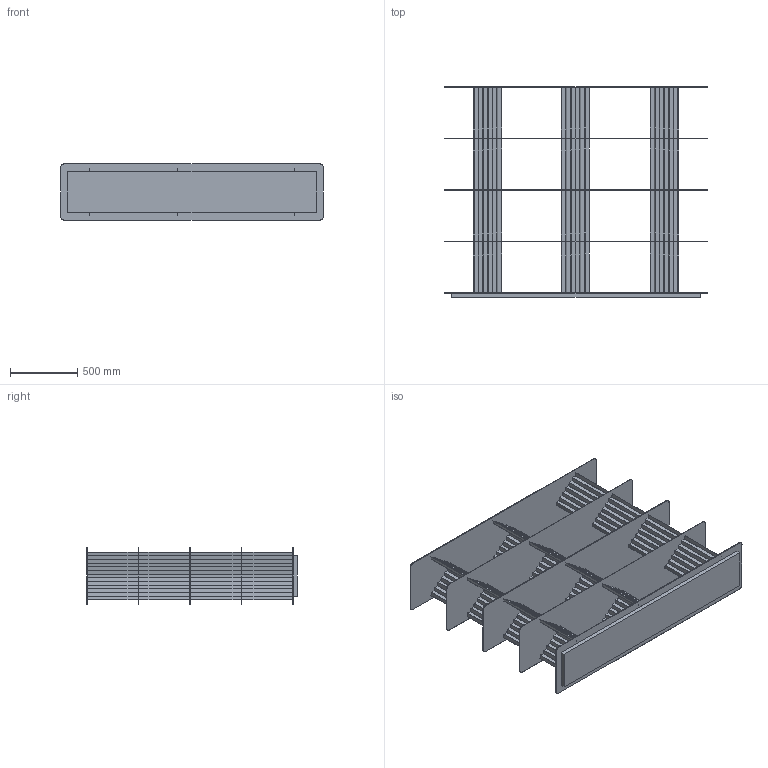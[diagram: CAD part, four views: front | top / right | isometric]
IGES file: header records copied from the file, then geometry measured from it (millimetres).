
Start section: SolidWorks IGES file using analytic representation for surfaces
Global section: file name: Z:\30-Ingenieria I+D\Proyectos\03-Plec_Shelves APO\1-sw\WEB\Arxius\PLEC SHELVES M 4 NIVELES.IGS; native system: SolidWorks 2020; preprocessor: SolidWorks 2020; author: Bernat Llonch; date: 250508.120433; units: millimetre
Bounding box: 1961 x 1571 x 420 mm (x, y, z)
Surface area: 16187461.1 mm2 (no closed solid volume)
Topology: 0 solids, 0 shells, 704 faces, 4288 edges, 4288 vertices
Faces by surface type: bspline 684, revolution 20
